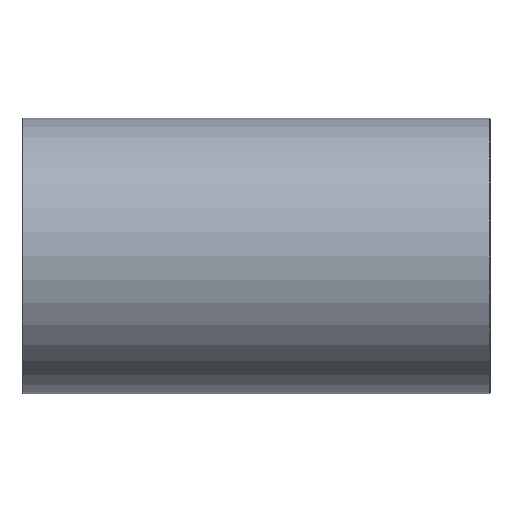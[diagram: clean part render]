
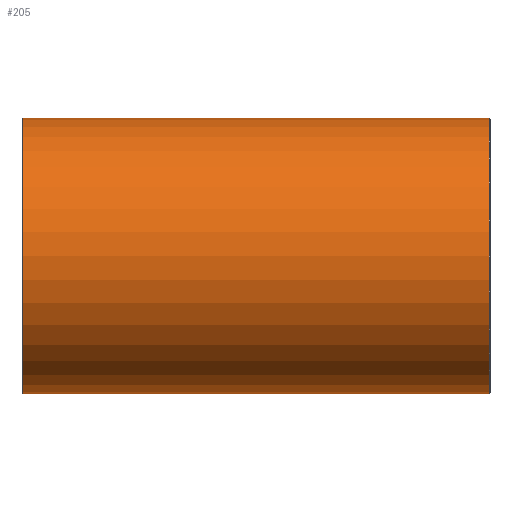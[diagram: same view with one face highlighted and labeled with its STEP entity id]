
A CAD part, front view. The second image highlights one B-rep face of the part: STEP entity #205.
In plain terms, the highlighted cylindrical face has radius 30.6 mm (diameter 61.2 mm), a full revolution.
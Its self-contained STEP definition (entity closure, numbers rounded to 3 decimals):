
#73=CARTESIAN_POINT('',(51.8,30.6,0.));
#74=VERTEX_POINT('',#73);
#75=CARTESIAN_POINT('',(51.8,0.0,0.0));
#76=DIRECTION('',(1.0,0.0,0.0));
#77=DIRECTION('',(0.0,-1.0,0.0));
#78=AXIS2_PLACEMENT_3D('',#75,#76,#77);
#79=CIRCLE('',#78,30.6);
#80=EDGE_CURVE('',#74,#74,#79,.T.);
#116=CARTESIAN_POINT('',(0.,0.0,0.0));
#117=DIRECTION('',(1.0,0.0,0.0));
#118=DIRECTION('',(0.0,1.0,0.0));
#119=AXIS2_PLACEMENT_3D('',#116,#117,#118);
#120=CYLINDRICAL_SURFACE('',#119,30.6);
#121=CARTESIAN_POINT('',(-51.8,30.6,0.));
#122=VERTEX_POINT('',#121);
#123=CARTESIAN_POINT('',(-51.8,0.0,0.0));
#124=DIRECTION('',(-1.0,0.0,0.0));
#125=DIRECTION('',(0.0,-1.0,0.0));
#126=AXIS2_PLACEMENT_3D('',#123,#124,#125);
#127=CIRCLE('',#126,30.6);
#128=EDGE_CURVE('',#122,#122,#127,.T.);
#129=ORIENTED_EDGE('',*,*,#128,.F.);
#130=EDGE_LOOP('',(#129));
#131=FACE_OUTER_BOUND('',#130,.T.);
#132=CARTESIAN_POINT('',(0.,21.912,21.36));
#133=VERTEX_POINT('',#132);
#134=CARTESIAN_POINT('',(0.,21.911,21.36));
#135=CARTESIAN_POINT('',(0.,21.911,21.36));
#136=CARTESIAN_POINT('',(0.,21.911,21.36));
#137=CARTESIAN_POINT('',(0.,21.911,21.36));
#138=CARTESIAN_POINT('',(0.962,21.911,21.36));
#139=CARTESIAN_POINT('',(2.895,22.007,21.262));
#140=CARTESIAN_POINT('',(6.645,22.549,20.696));
#141=CARTESIAN_POINT('',(10.186,23.535,19.593));
#142=CARTESIAN_POINT('',(13.327,24.705,18.077));
#143=CARTESIAN_POINT('',(15.529,25.641,16.73));
#144=CARTESIAN_POINT('',(17.545,26.589,15.185));
#145=CARTESIAN_POINT('',(19.153,27.401,13.656));
#146=CARTESIAN_POINT('',(20.42,28.072,12.206));
#147=CARTESIAN_POINT('',(21.743,28.794,10.436));
#148=CARTESIAN_POINT('',(22.846,29.421,8.523));
#149=CARTESIAN_POINT('',(23.696,29.915,6.5));
#150=CARTESIAN_POINT('',(24.207,30.217,4.92));
#151=CARTESIAN_POINT('',(24.577,30.436,3.299));
#152=CARTESIAN_POINT('',(24.875,30.615,1.113));
#153=CARTESIAN_POINT('',(24.874,30.615,-1.116));
#154=CARTESIAN_POINT('',(24.576,30.436,-3.301));
#155=CARTESIAN_POINT('',(24.084,30.143,-5.461));
#156=CARTESIAN_POINT('',(23.309,29.688,-7.539));
#157=CARTESIAN_POINT('',(22.293,29.107,-9.481));
#158=CARTESIAN_POINT('',(21.117,28.448,-11.347));
#159=CARTESIAN_POINT('',(19.717,27.692,-13.073));
#160=CARTESIAN_POINT('',(18.135,26.886,-14.63));
#161=CARTESIAN_POINT('',(16.162,25.925,-16.312));
#162=CARTESIAN_POINT('',(13.765,24.863,-17.877));
#163=CARTESIAN_POINT('',(10.949,23.827,-19.212));
#164=CARTESIAN_POINT('',(8.707,23.129,-20.043));
#165=CARTESIAN_POINT('',(6.333,22.547,-20.692));
#166=CARTESIAN_POINT('',(4.07,22.162,-21.101));
#167=CARTESIAN_POINT('',(1.945,21.955,-21.316));
#168=CARTESIAN_POINT('',(0.023,21.891,-21.381));
#169=CARTESIAN_POINT('',(-1.911,21.953,-21.318));
#170=CARTESIAN_POINT('',(-4.445,22.196,-21.065));
#171=CARTESIAN_POINT('',(-6.92,22.668,-20.564));
#172=CARTESIAN_POINT('',(-9.237,23.292,-19.85));
#173=CARTESIAN_POINT('',(-11.472,24.,-18.998));
#174=CARTESIAN_POINT('',(-13.567,24.802,-17.948));
#175=CARTESIAN_POINT('',(-15.498,25.637,-16.72));
#176=CARTESIAN_POINT('',(-16.854,26.262,-15.721));
#177=CARTESIAN_POINT('',(-18.976,27.296,-13.917));
#178=CARTESIAN_POINT('',(-20.935,28.343,-11.683));
#179=CARTESIAN_POINT('',(-22.944,29.473,-8.417));
#180=CARTESIAN_POINT('',(-24.211,30.217,-5.31));
#181=CARTESIAN_POINT('',(-24.772,30.553,-2.233));
#182=CARTESIAN_POINT('',(-24.875,30.615,-0.013));
#183=CARTESIAN_POINT('',(-24.778,30.557,2.191));
#184=CARTESIAN_POINT('',(-24.279,30.258,4.932));
#185=CARTESIAN_POINT('',(-23.129,29.582,8.028));
#186=CARTESIAN_POINT('',(-21.747,28.796,10.432));
#187=CARTESIAN_POINT('',(-20.421,28.072,12.204));
#188=CARTESIAN_POINT('',(-18.613,27.116,14.275));
#189=CARTESIAN_POINT('',(-16.264,25.954,16.279));
#190=CARTESIAN_POINT('',(-13.331,24.707,18.076));
#191=CARTESIAN_POINT('',(-10.975,23.83,19.212));
#192=CARTESIAN_POINT('',(-8.416,23.041,20.146));
#193=CARTESIAN_POINT('',(-5.707,22.414,20.836));
#194=CARTESIAN_POINT('',(-2.896,22.007,21.262));
#195=CARTESIAN_POINT('',(-0.962,21.911,21.36));
#196=CARTESIAN_POINT('',(0.,21.911,21.36));
#197=B_SPLINE_CURVE_WITH_KNOTS('',3,(#134,#135,#136,#137,#138,#139,#140,#141,#142,#143,#144,#145,#146,#147,#148,#149,#150,#151,#152,#153,#154,#155,#156,#157,#158,#159,#160,#161,#162,#163,#164,#165,#166,#167,#168,#169,#170,#171,#172,#173,#174,#175,#176,#177,#178,#179,#180,#181,#182,#183,#184,#185,#186,#187,#188,#189,#190,#191,#192,#193,#194,#195,#196),.UNSPECIFIED.,.T.,.U.,(4,3,1,1,1,1,1,1,1,1,1,1,1,1,1,1,1,1,1,1,1,1,1,1,1,1,1,1,1,1,1,1,1,1,1,1,1,1,1,1,1,1,1,1,1,1,1,1,1,1,1,1,1,1,1,1,1,1,4),(-12.426,-12.426,-12.204,-11.982,-11.539,-11.317,-11.095,-10.873,-10.651,-10.503,-10.355,-10.059,-9.911,-9.763,-9.616,-9.468,-9.172,-9.024,-8.876,-8.58,-8.432,-8.284,-7.988,-7.84,-7.692,-7.298,-7.101,-6.903,-6.706,-6.509,-6.361,-6.213,-6.065,-5.917,-5.621,-5.473,-5.326,-5.03,-4.882,-4.734,-4.586,-4.142,-3.945,-3.55,-3.254,-3.107,-2.959,-2.663,-2.367,-2.071,-1.923,-1.775,-1.331,-1.109,-0.888,-0.666,-0.444,-0.222,0.),.UNSPECIFIED.);
#198=EDGE_CURVE('',#133,#133,#197,.T.);
#199=ORIENTED_EDGE('',*,*,#198,.F.);
#200=EDGE_LOOP('',(#199));
#201=FACE_BOUND('',#200,.T.);
#202=ORIENTED_EDGE('',*,*,#80,.F.);
#203=EDGE_LOOP('',(#202));
#204=FACE_BOUND('',#203,.T.);
#205=ADVANCED_FACE('',(#131,#201,#204),#120,.T.);
